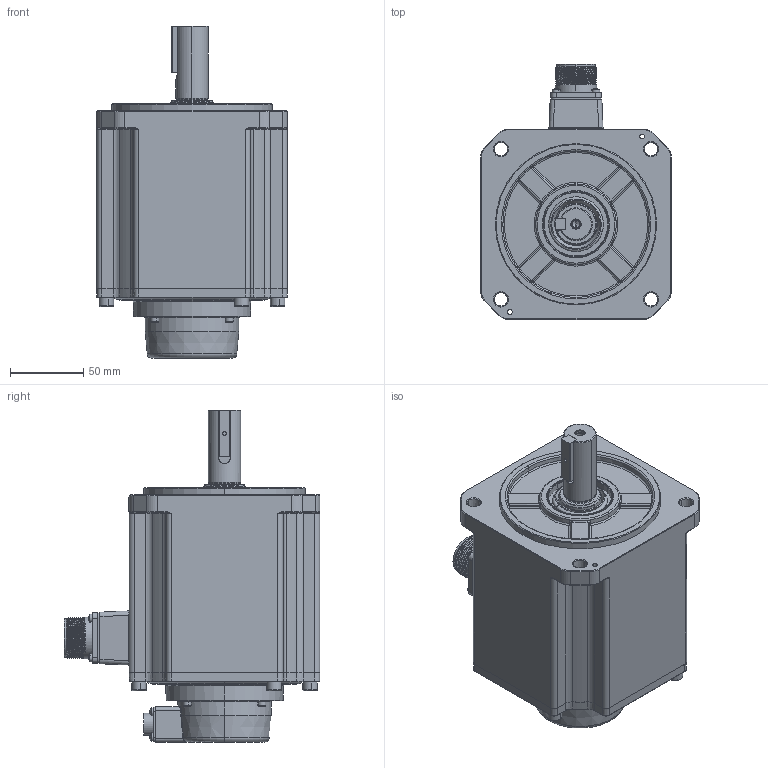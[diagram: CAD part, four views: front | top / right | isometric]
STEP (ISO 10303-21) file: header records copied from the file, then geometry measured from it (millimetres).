
FILE_DESCRIPTION (( 'STEP AP214' ), '1' );
FILE_NAME ('RSA1-M-130-1.8kw.STEP', '2024-08-12T02:12:27', ( '' ), ( '' ), 'SwSTEP 2.0', 'SolidWorks 2020', '' );
FILE_SCHEMA (( 'AUTOMOTIVE_DESIGN' ));
Length unit declared in the file: millimetre
Products named in the file (14): 雄薯瑤脣; 130梓袧綴裔; 内六角圆柱头和平垫圈组合螺钉_M3x16; 130雄薯瑤脣價釱; RSA1-M-130-1.8kw; 130-M-1.8kw儂褲; す瑩_B8x7x32; 130-梓袧綴傷裔; 4140000005_电机内部编码器线_7x26AWG(0.1m-CMV1-10芯螺纹插座_GACJ3045); 内六角圆柱头螺钉_M6x20; 坋趼羞攫芛蹟隊_M3x30; ﾊｮﾗﾖｲﾛﾅﾌﾍｷﾗﾔｼｷﾂﾝｶ､_M3x8; 130-笢嫦講-粣噤22; 130-蚐猾_TC30x45x8(NBR)
Assembly tree (25 placements, depth 2):
  RSA1-M-130-1.8kw
    130-M-1.8kw儂褲
    130雄薯瑤脣價釱
    130-笢嫦講-粣噤22
    雄薯瑤脣
    130-蚐猾_TC30x45x8(NBR)
    130-梓袧綴傷裔
    130梓袧綴裔
    4140000005_电机内部编码器线_7x26AWG(0.1m-CMV1-10芯螺纹插座_GACJ3045)
    内六角圆柱头螺钉_M6x20  x4
    内六角圆柱头和平垫圈组合螺钉_M3x16  x4
    坋趼羞攫芛蹟隊_M3x30  x4
    ﾊｮﾗﾖｲﾛﾅﾌﾍｷﾗﾔｼｷﾂﾝｶ､_M3x8  x4
    す瑩_B8x7x32
Bounding box: 130 x 174.4 x 226.6 mm (x, y, z)
Volume: 2130221.5 mm3; surface area: 196839 mm2
Topology: 36 solids, 36 shells, 2555 faces, 6364 edges, 3965 vertices
Faces by surface type: plane 1234, cylinder 640, cone 302, torus 188, bspline 131, sphere 60
Entity records: 93346 total; most frequent: CARTESIAN_POINT 24235, DIRECTION 11096, ORIENTED_EDGE 11044, EDGE_CURVE 5522, AXIS2_PLACEMENT_3D 3897, VERTEX_POINT 3479, LINE 3302, VECTOR 3302
